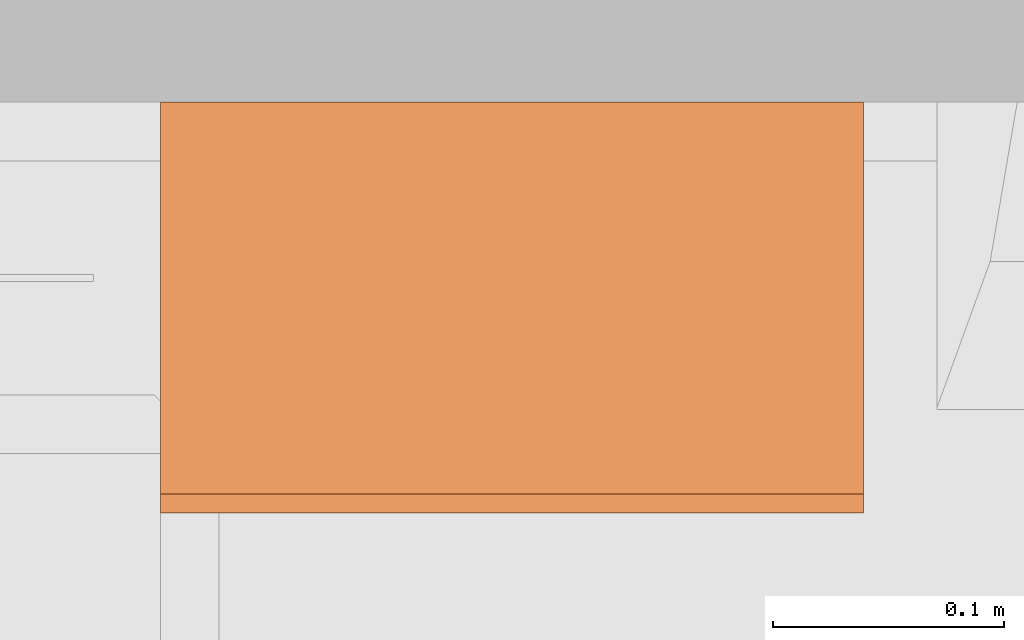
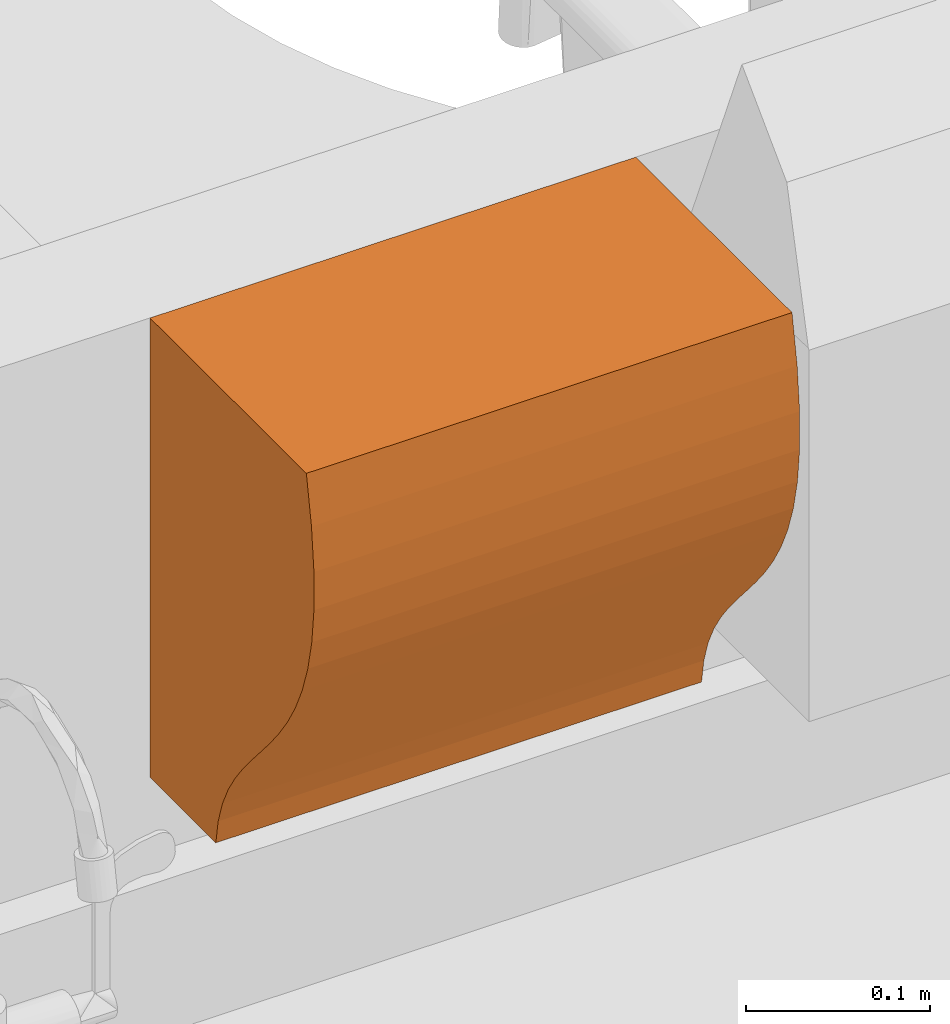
# One storey, part 128 of 142: 1 proxy.
"""IFC2X3 building model written with IfcOpenShell, lengths in feet."""

from ifc_helpers import new_model, entity, si_unit, converted_unit, derived_unit, direction, frame, origin, place, context, subcontext, project, spatial, polyline, outline, extrude, source, transform, mapped, type_object, type_shapes, element, save


model = new_model("IFC2X3")

# Units and contexts
model_context = context("Model", 3, precision=0.0001, world=origin(), true_north=direction((6.12303176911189e-17, 1.0)))
body_context = subcontext(model_context, "Body", "Model", "MODEL_VIEW")
ifc_project = project(units=[converted_unit("LENGTHUNIT", "FOOT", entity("IfcRatioMeasure", 0.3048), si_unit("LENGTHUNIT", "METRE"), dimensions=[1, 0, 0, 0, 0, 0, 0]), converted_unit("AREAUNIT", "SQUARE FOOT", entity("IfcRatioMeasure", 0.09290304), si_unit("AREAUNIT", "SQUARE_METRE"), dimensions=[2, 0, 0, 0, 0, 0, 0]), converted_unit("VOLUMEUNIT", "CUBIC FOOT", entity("IfcRatioMeasure", 0.028316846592), si_unit("VOLUMEUNIT", "CUBIC_METRE"), dimensions=[3, 0, 0, 0, 0, 0, 0]), converted_unit("PLANEANGLEUNIT", "DEGREE", entity("IfcRatioMeasure", 0.0174532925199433), si_unit("PLANEANGLEUNIT", "RADIAN"), dimensions=[0, 0, 0, 0, 0, 0, 0]), si_unit("MASSUNIT", "GRAM", prefix="KILO"), derived_unit("MASSDENSITYUNIT", [(si_unit("MASSUNIT", "GRAM", prefix="KILO"), 1), (si_unit("LENGTHUNIT", "METRE"), -3)]), si_unit("TIMEUNIT", "SECOND"), si_unit("FREQUENCYUNIT", "HERTZ"), si_unit("THERMODYNAMICTEMPERATUREUNIT", "DEGREE_CELSIUS"), derived_unit("THERMALTRANSMITTANCEUNIT", [(si_unit("MASSUNIT", "GRAM", prefix="KILO"), 1), (si_unit("THERMODYNAMICTEMPERATUREUNIT", "KELVIN"), -1), (si_unit("TIMEUNIT", "SECOND"), -3)]), derived_unit("VOLUMETRICFLOWRATEUNIT", [(si_unit("LENGTHUNIT", "METRE"), 3), (si_unit("TIMEUNIT", "SECOND"), -1)]), si_unit("ELECTRICCURRENTUNIT", "AMPERE"), si_unit("ELECTRICVOLTAGEUNIT", "VOLT"), si_unit("POWERUNIT", "WATT"), si_unit("FORCEUNIT", "NEWTON"), si_unit("ILLUMINANCEUNIT", "LUX"), si_unit("LUMINOUSFLUXUNIT", "LUMEN"), si_unit("LUMINOUSINTENSITYUNIT", "CANDELA"), derived_unit("USERDEFINED", [(si_unit("MASSUNIT", "GRAM", prefix="KILO"), -1), (si_unit("LENGTHUNIT", "METRE"), -2), (si_unit("TIMEUNIT", "SECOND"), 3), (si_unit("LUMINOUSFLUXUNIT", "LUMEN"), 1)]), derived_unit("LINEARVELOCITYUNIT", [(si_unit("LENGTHUNIT", "METRE"), 1), (si_unit("TIMEUNIT", "SECOND"), -1)]), si_unit("PRESSUREUNIT", "PASCAL"), derived_unit("USERDEFINED", [(si_unit("LENGTHUNIT", "METRE"), -2), (si_unit("MASSUNIT", "GRAM", prefix="KILO"), 1), (si_unit("TIMEUNIT", "SECOND"), -2)])], contexts=[model_context])

# Site, building, storey
site_placement = place(None, origin())
site = spatial("IfcSite", under=ifc_project, at=site_placement, Name="Default", CompositionType="ELEMENT")
building_placement = place(site_placement, origin())
building = spatial("IfcBuilding", under=site, at=building_placement, Name="OUTPATIENT / PACT CLINIC (Ch. 265)", CompositionType="ELEMENT")
storey_placement = place(building_placement, origin())
storey = spatial("IfcBuildingStorey", under=building, at=storey_placement, Name="LEVEL 1", CompositionType="ELEMENT", Elevation=0.0)

# Proxy
building_element_proxy_type = type_object("IfcBuildingElementProxyType", Name="A5082 - Dispenser, Paper Towel, Sensor, Hands Free", PredefinedType="NOTDEFINED")
shared_shape = source(origin(), body_context, "Body", "SweptSolid", [
    extrude(outline(polyline([(-0.394840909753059, -0.5716804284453), (0.162901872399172, -0.5716804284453), (0.181242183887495, -0.466986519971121), (0.189922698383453, -0.373421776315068), (0.189954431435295, -0.2899834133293), (0.182348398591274, -0.215668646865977), (0.168115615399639, -0.149474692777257), (0.148267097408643, -0.0903987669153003), (0.123813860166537, -0.0374380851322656), (0.095766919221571, 0.0104101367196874), (0.0651372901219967, 0.0541486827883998), (0.0329359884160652, 0.0947803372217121), (0.000174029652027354, 0.133307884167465), (-0.0321375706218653, 0.1707341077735), (-0.0629877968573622, 0.208061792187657), (-0.0913656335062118, 0.246293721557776), (-0.116260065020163, 0.2864326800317), (-0.136660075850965, 0.329481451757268), (-0.151554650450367, 0.376442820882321), (-0.159932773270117, 0.4283195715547), (-0.394840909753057, 0.428319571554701), (-0.394840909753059, -0.5716804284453)])), frame((0.0, -0.394840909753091, 0.428319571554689), z_axis=(1.0, 0.0, 0.0), x_axis=(0.0, -1.0, 0.0)), (0.0, 0.0, 1.0), 1.0),
])
type_shapes(building_element_proxy_type, [shared_shape])
proxy_placement = place(storey_placement, frame((418.859283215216, -889.712158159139, 3.5)))
element("IfcBuildingElementProxy", 1, at=proxy_placement, inside=storey, type_object=building_element_proxy_type, Name="A5082 - Dispenser, Paper Towel, Sensor, Hands Free:A5082 - Dispenser, Paper Towel, Sensor, Hands Free", ObjectType="A5082 - Dispenser, Paper Towel, Sensor, Hands Free", context=body_context, shape_type="MappedRepresentation", body=[
    mapped(shared_shape, transform((0.0, 0.0, 0.0), scale=1.0)),
])

save(model, "model.ifc")
